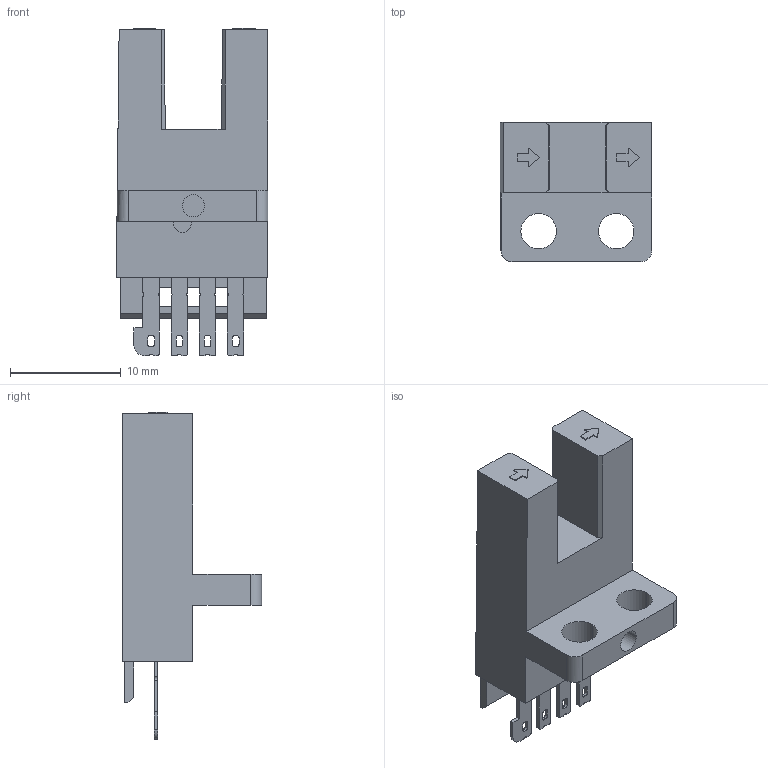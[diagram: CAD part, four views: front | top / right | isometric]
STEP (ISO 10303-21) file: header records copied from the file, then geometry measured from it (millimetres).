
FILE_DESCRIPTION((''),'2;1');
FILE_NAME('FF-U673QJ_ASM','2018-07-23T17:12:27',('Administrator'),(''),'CREO PARAMETRIC BY PTC INC, 2016390','CREO PARAMETRIC BY PTC INC, 2016390','');
FILE_SCHEMA(('CONFIG_CONTROL_DESIGN'));
Length unit declared in the file: millimetre
Products named in the file (5): FF-U673QJ; QIAJIAOGAI; 670000; WUJINQIAJIAO_ASM; FF-U673QJ_ASM
Assembly tree (4 placements, depth 3):
  FF-U673QJ_ASM
    FF-U673QJ
    WUJINQIAJIAO_ASM
      QIAJIAOGAI
      670000
Bounding box: 13.66 x 12.55 x 29.5 mm (x, y, z)
Volume: 993.2 mm3; surface area: 2491.4 mm2
Topology: 6 solids, 6 shells, 219 faces, 615 edges, 408 vertices
Faces by surface type: plane 174, cylinder 45
Entity records: 7171 total; most frequent: CARTESIAN_POINT 1262, ORIENTED_EDGE 1230, DIRECTION 1161, EDGE_CURVE 615, VECTOR 525, LINE 525, VERTEX_POINT 408, AXIS2_PLACEMENT_3D 318
